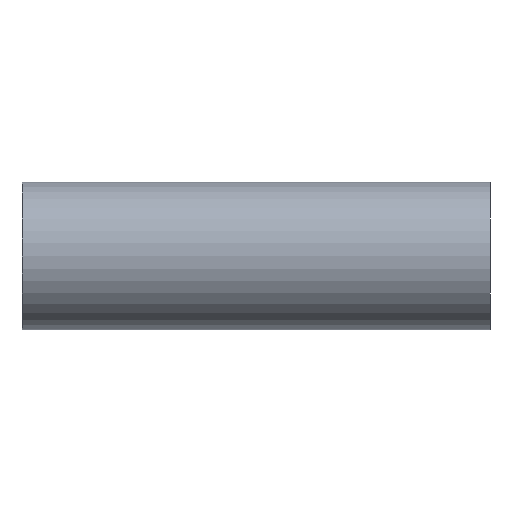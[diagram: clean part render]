
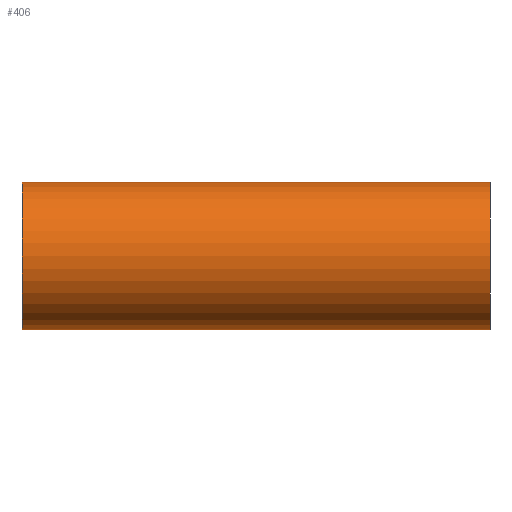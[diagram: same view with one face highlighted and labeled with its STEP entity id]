
A CAD part, front view. The second image highlights one B-rep face of the part: STEP entity #406.
In plain terms, the highlighted cylindrical face has radius 19.05 mm (diameter 38.1 mm), a partial arc.
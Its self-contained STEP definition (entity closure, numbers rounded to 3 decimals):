
#6 = CARTESIAN_POINT ( 'NONE',  ( -60.3, 0., -19.05 ) ) ;
#70 = DIRECTION ( 'NONE',  ( 1., 0., 0. ) ) ;
#72 = AXIS2_PLACEMENT_3D ( 'NONE', #733, #1222, #1219 ) ;
#98 = CYLINDRICAL_SURFACE ( 'NONE', #428, 19.05 ) ;
#102 = ORIENTED_EDGE ( 'NONE', *, *, #1190, .T. ) ;
#225 = CARTESIAN_POINT ( 'NONE',  ( 60.3, 0., 19.05 ) ) ;
#281 = DIRECTION ( 'NONE',  ( -1., 0., 0. ) ) ;
#344 = ORIENTED_EDGE ( 'NONE', *, *, #562, .F. ) ;
#376 = CARTESIAN_POINT ( 'NONE',  ( 60.3, 0., -19.05 ) ) ;
#406 = ADVANCED_FACE ( 'NONE', ( #627 ), #98, .T. ) ;
#423 = CIRCLE ( 'NONE', #72, 19.05 ) ;
#428 = AXIS2_PLACEMENT_3D ( 'NONE', #1046, #902, #977 ) ;
#443 = VERTEX_POINT ( 'NONE', #376 ) ;
#463 = ORIENTED_EDGE ( 'NONE', *, *, #508, .T. ) ;
#488 = EDGE_LOOP ( 'NONE', ( #344, #102, #790, #463 ) ) ;
#508 = EDGE_CURVE ( 'NONE', #443, #843, #955, .T. ) ;
#562 = EDGE_CURVE ( 'NONE', #583, #843, #866, .T. ) ;
#583 = VERTEX_POINT ( 'NONE', #1108 ) ;
#627 = FACE_OUTER_BOUND ( 'NONE', #488, .T. ) ;
#643 = DIRECTION ( 'NONE',  ( 1., 0., 0. ) ) ;
#670 = CARTESIAN_POINT ( 'NONE',  ( 60.3, 0., 0. ) ) ;
#733 = CARTESIAN_POINT ( 'NONE',  ( -60.3, 0., 0. ) ) ;
#738 = DIRECTION ( 'NONE',  ( 0., 0., -1. ) ) ;
#772 = AXIS2_PLACEMENT_3D ( 'NONE', #670, #281, #738 ) ;
#779 = VECTOR ( 'NONE', #70, 1000. ) ;
#790 = ORIENTED_EDGE ( 'NONE', *, *, #889, .T. ) ;
#843 = VERTEX_POINT ( 'NONE', #225 ) ;
#866 = LINE ( 'NONE', #1123, #779 ) ;
#889 = EDGE_CURVE ( 'NONE', #1078, #443, #1212, .T. ) ;
#902 = DIRECTION ( 'NONE',  ( 1., 0., 0. ) ) ;
#955 = CIRCLE ( 'NONE', #772, 19.05 ) ;
#962 = CARTESIAN_POINT ( 'NONE',  ( -60.3, 0., -19.05 ) ) ;
#977 = DIRECTION ( 'NONE',  ( 0., 0., -1. ) ) ;
#1046 = CARTESIAN_POINT ( 'NONE',  ( -60.3, 0., 0. ) ) ;
#1078 = VERTEX_POINT ( 'NONE', #962 ) ;
#1108 = CARTESIAN_POINT ( 'NONE',  ( -60.3, 0., 19.05 ) ) ;
#1123 = CARTESIAN_POINT ( 'NONE',  ( -60.3, 0., 19.05 ) ) ;
#1166 = VECTOR ( 'NONE', #643, 1000. ) ;
#1190 = EDGE_CURVE ( 'NONE', #583, #1078, #423, .T. ) ;
#1212 = LINE ( 'NONE', #6, #1166 ) ;
#1219 = DIRECTION ( 'NONE',  ( 0., 0., -1. ) ) ;
#1222 = DIRECTION ( 'NONE',  ( 1., 0., 0. ) ) ;
